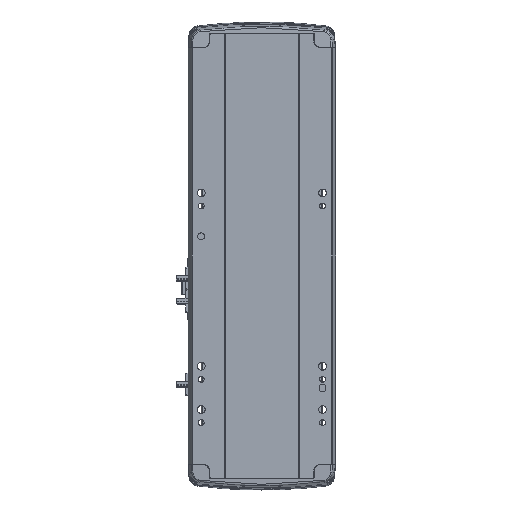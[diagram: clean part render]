
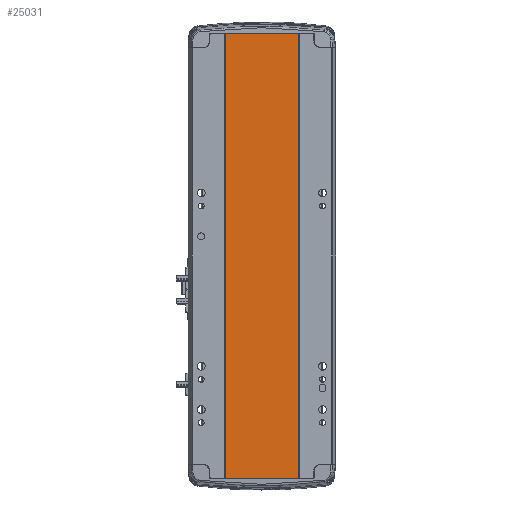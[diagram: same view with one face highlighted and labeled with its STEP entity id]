
A CAD part, front view. The second image highlights one B-rep face of the part: STEP entity #25031.
In plain terms, the highlighted planar face has unit normal (0, -1, 0).
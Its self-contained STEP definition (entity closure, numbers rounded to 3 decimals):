
#864 = VERTEX_POINT ( 'NONE', #15679 ) ;
#1447 = CARTESIAN_POINT ( 'NONE',  ( -41.791, 1., 0. ) ) ;
#1769 = EDGE_CURVE ( 'NONE', #7508, #864, #6233, .T. ) ;
#2175 = EDGE_CURVE ( 'NONE', #39001, #7508, #14748, .T. ) ;
#5952 = PLANE ( 'NONE',  #13809 ) ;
#6233 = LINE ( 'NONE', #30270, #31305 ) ;
#7508 = VERTEX_POINT ( 'NONE', #8509 ) ;
#8229 = EDGE_LOOP ( 'NONE', ( #37774, #36500, #8337, #25458 ) ) ;
#8337 = ORIENTED_EDGE ( 'NONE', *, *, #2175, .F. ) ;
#8509 = CARTESIAN_POINT ( 'NONE',  ( 41.793, 0.998, 514.5 ) ) ;
#9525 = VECTOR ( 'NONE', #30608, 1000. ) ;
#12143 = CARTESIAN_POINT ( 'NONE',  ( 0., 0.999, 514.5 ) ) ;
#13809 = AXIS2_PLACEMENT_3D ( 'NONE', #12143, #15199, #36086 ) ;
#14499 = CARTESIAN_POINT ( 'NONE',  ( 0., 0.999, 514.5 ) ) ;
#14748 = LINE ( 'NONE', #14499, #9525 ) ;
#15023 = FACE_OUTER_BOUND ( 'NONE', #8229, .T. ) ;
#15199 = DIRECTION ( 'NONE',  ( 0., 1., 0. ) ) ;
#15679 = CARTESIAN_POINT ( 'NONE',  ( 41.793, 0.998, 0. ) ) ;
#16878 = LINE ( 'NONE', #24935, #25873 ) ;
#17023 = EDGE_CURVE ( 'NONE', #25989, #864, #27635, .T. ) ;
#22399 = DIRECTION ( 'NONE',  ( 0., 0., -1. ) ) ;
#24935 = CARTESIAN_POINT ( 'NONE',  ( -41.791, 1., 514.5 ) ) ;
#25031 = ADVANCED_FACE ( 'NONE', ( #15023 ), #5952, .F. ) ;
#25458 = ORIENTED_EDGE ( 'NONE', *, *, #36966, .T. ) ;
#25873 = VECTOR ( 'NONE', #22399, 1000. ) ;
#25989 = VERTEX_POINT ( 'NONE', #1447 ) ;
#27635 = LINE ( 'NONE', #34935, #34740 ) ;
#30270 = CARTESIAN_POINT ( 'NONE',  ( 41.793, 0.998, 514.5 ) ) ;
#30608 = DIRECTION ( 'NONE',  ( 1., 0., 0. ) ) ;
#31305 = VECTOR ( 'NONE', #36350, 1000. ) ;
#32148 = DIRECTION ( 'NONE',  ( 1., 0., 0. ) ) ;
#34740 = VECTOR ( 'NONE', #32148, 1000. ) ;
#34935 = CARTESIAN_POINT ( 'NONE',  ( 0., 0.999, 0. ) ) ;
#36086 = DIRECTION ( 'NONE',  ( -1., 0., 0. ) ) ;
#36350 = DIRECTION ( 'NONE',  ( 0., 0., -1. ) ) ;
#36364 = CARTESIAN_POINT ( 'NONE',  ( -41.791, 1., 514.5 ) ) ;
#36500 = ORIENTED_EDGE ( 'NONE', *, *, #1769, .F. ) ;
#36966 = EDGE_CURVE ( 'NONE', #39001, #25989, #16878, .T. ) ;
#37774 = ORIENTED_EDGE ( 'NONE', *, *, #17023, .T. ) ;
#39001 = VERTEX_POINT ( 'NONE', #36364 ) ;
